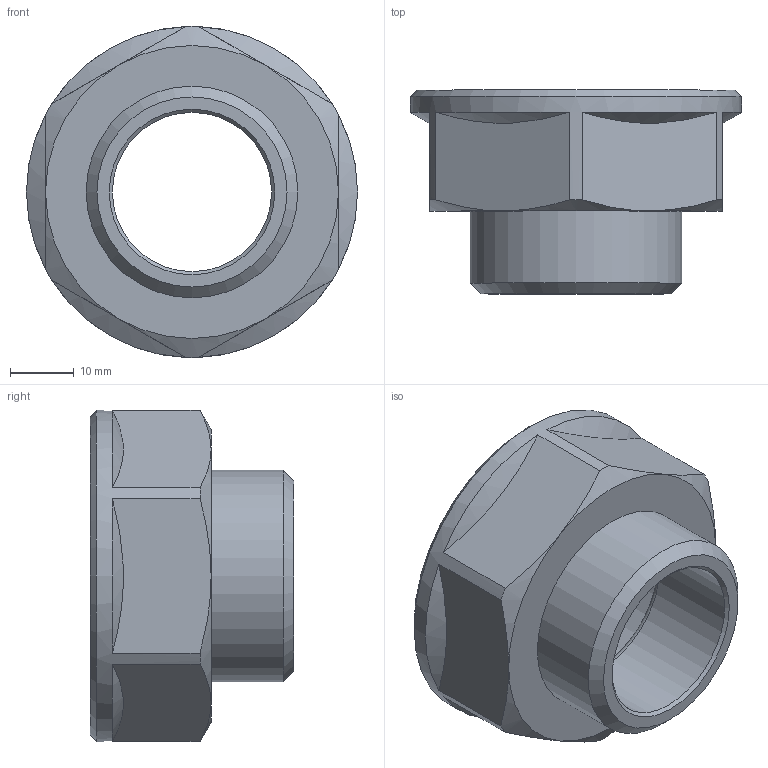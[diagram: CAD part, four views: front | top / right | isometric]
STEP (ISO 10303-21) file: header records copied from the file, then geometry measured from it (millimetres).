
FILE_DESCRIPTION(('STEP AP203'), '1');
FILE_NAME('ﾂﾐ.753138.012 - VTr.592.N.0706 ﾏ褞襄. G1 1-4xG1', '2024-07-08T09:38:22', ('Boss'), (''), 'C3D Converter', 'C3D Toolkit', '');
FILE_SCHEMA(('CONFIG_CONTROL_DESIGN'));
Length unit declared in the file: millimetre
Products named in the file (1): ВР.753138.012
Bounding box: 52 x 32 x 52 mm (x, y, z)
Volume: 19795.7 mm3; surface area: 10264.3 mm2
Topology: 1 solids, 1 shells, 31 faces, 70 edges, 43 vertices
Faces by surface type: cone 16, plane 10, cylinder 4, torus 1
Full cylindrical faces by diameter (mm): 25 x1, 33.249 x1, 38.953 x1, 52 x1
Entity records: 1440 total; most frequent: CARTESIAN_POINT 755, DIRECTION 138, ORIENTED_EDGE 122, AXIS2_PLACEMENT_3D 63, EDGE_CURVE 61, EDGE_LOOP 44, VERTEX_POINT 43, ADVANCED_FACE 31
